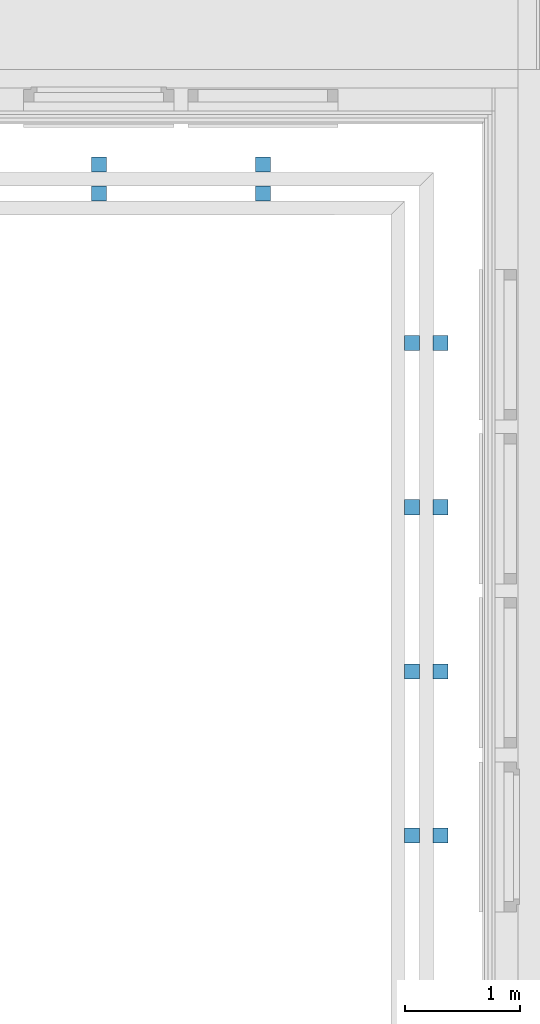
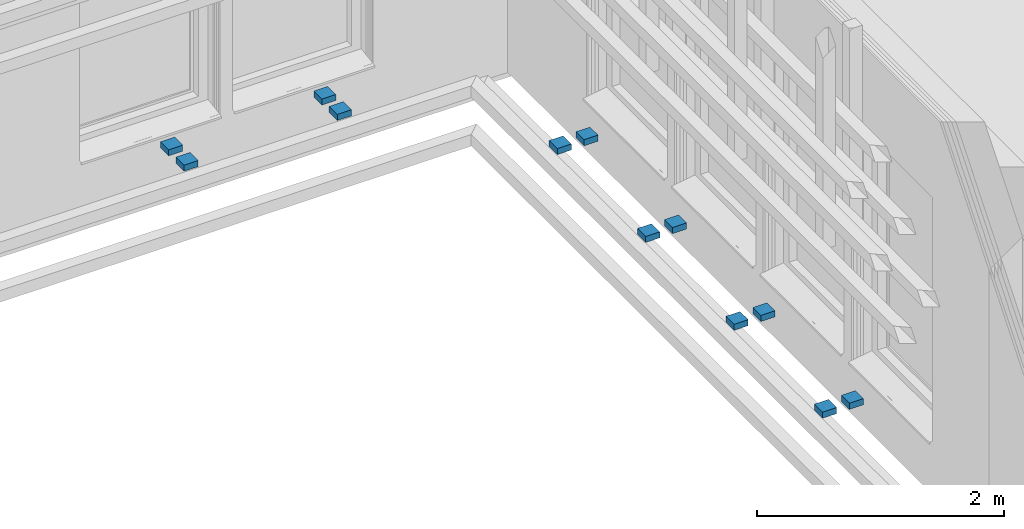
# One storey, part 27 of 139: 12 discrete accessories.
"""IFC2X3 building model written with IfcOpenShell, lengths in millimetres."""

from ifc_helpers import new_model, entity, si_unit, converted_unit, derived_unit, money_unit, direction, frame, origin_with_axes, place, context, subcontext, project, spatial, faceted_brep, source, transform, mapped, material, type_object, element, save


model = new_model("IFC2X3")

# Units and contexts
model_context = context("Model", 3, precision=0.01, world=origin_with_axes(), true_north=direction((0.0, 1.0)))
body_context = subcontext(model_context, "Body", "Model", "MODEL_VIEW")
ifc_project = project(units=[si_unit("LENGTHUNIT", "METRE", prefix="MILLI"), si_unit("AREAUNIT", "SQUARE_METRE"), si_unit("VOLUMEUNIT", "CUBIC_METRE"), converted_unit("PLANEANGLEUNIT", "DEGREE", entity("IfcPlaneAngleMeasure", 0.0174532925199), si_unit("PLANEANGLEUNIT", "RADIAN"), dimensions=[0, 0, 0, 0, 0, 0, 0]), money_unit("EUR"), converted_unit("TIMEUNIT", "Year", entity("IfcTimeMeasure", 31556926.0), si_unit("TIMEUNIT", "SECOND"), dimensions=[0, 0, 1, 0, 0, 0, 0]), si_unit("MASSUNIT", "GRAM", prefix="KILO"), si_unit("THERMODYNAMICTEMPERATUREUNIT", "DEGREE_CELSIUS"), si_unit("LUMINOUSINTENSITYUNIT", "LUMEN"), si_unit("ENERGYUNIT", "JOULE", prefix="MEGA"), derived_unit("THERMALCONDUCTANCEUNIT", [(si_unit("POWERUNIT", "WATT"), 1), (si_unit("LENGTHUNIT", "METRE"), -1), (si_unit("THERMODYNAMICTEMPERATUREUNIT", "KELVIN"), -1)]), derived_unit("SPECIFICHEATCAPACITYUNIT", [(si_unit("ENERGYUNIT", "JOULE"), 1), (si_unit("MASSUNIT", "GRAM", prefix="KILO"), -1), (si_unit("THERMODYNAMICTEMPERATUREUNIT", "KELVIN"), -1)]), derived_unit("MASSDENSITYUNIT", [(si_unit("MASSUNIT", "GRAM", prefix="KILO"), 1), (si_unit("VOLUMEUNIT", "CUBIC_METRE"), -1)])], contexts=[model_context])

# Site, building, storey
site_placement = place(None, origin_with_axes())
site = spatial("IfcSite", under=ifc_project, at=site_placement, Name="Kolde pst 67a", CompositionType="ELEMENT")
building_placement = place(site_placement, origin_with_axes())
building = spatial("IfcBuilding", under=site, at=building_placement, Name="Riigigümnaasium", CompositionType="ELEMENT")
storey_placement = place(building_placement, frame((0.0, 0.0, 4600.0), z_axis=(0.0, 0.0, 1.0), x_axis=(1.0, 0.0, 0.0)))
storey = spatial("IfcBuildingStorey", under=building, at=storey_placement, Name="2. korrus", CompositionType="ELEMENT", Elevation=4600.0)

# Discrete accessories
ifc_material = material(Name="_METALL - teras")
discrete_accessory_type = type_object("IfcDiscreteAccessoryType", Name="Ribi mütsike")
shared_shape = source(origin_with_axes(), body_context, "Body", "Brep", [
    faceted_brep([(130.599681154, 0.599686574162, 59.9999991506), (131.19964603, -0.000354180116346, 59.9999991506), (131.20794202, 131.19964603, 59.9999991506), (130.607901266, 130.599681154, 59.9999991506), (131.19964603, -0.000354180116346, 0.0), (65.6037939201, 65.6037939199, 63.4372869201), (65.6037939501, 65.6037939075, 62.8830381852), (130.599681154, 0.599686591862, 59.4568348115), (130.599681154, 0.599686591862, 19.9999983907), (130.599683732, 0.599683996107, 0.60000014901), (129.299765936, 1.89976619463, 0.60000014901), (129.299765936, 1.899766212, 19.9999983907), (128.699802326, 2.49980569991, 19.9999983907), (128.699802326, 2.49980569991, 0.0), (131.20794202, 131.19964603, 0.0), (128.707782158, 128.699802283, 0.0), (128.707782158, 128.699802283, 19.9999983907), (129.307821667, 129.299765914, 19.9999983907), (129.307821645, 129.299765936, 0.60000014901), (130.607903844, 130.599683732, 0.60000014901), (130.607901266, 130.599681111, 19.9999983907), (130.607901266, 130.599681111, 59.4568348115)], [[[0, 1, 2, 3]], [[4, 1, 0, 5, 6, 7, 8, 9, 10, 11, 12, 13]], [[1, 4, 14, 2]], [[6, 5, 3, 2, 14, 15, 16, 17, 18, 19, 20, 21]], [[5, 0, 3]], [[7, 6, 21]], [[8, 7, 21, 20, 19, 9]], [[10, 9, 19, 18]], [[11, 10, 18, 17]], [[12, 11, 17, 16]], [[13, 12, 16, 15]], [[4, 13, 15, 14]]]),
    faceted_brep([(0.607906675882, 130.607901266, 59.9999991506), (65.6037939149, 65.6037939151, 63.4372869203), (130.607901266, 130.599681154, 59.9999991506), (65.603793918, 65.6037939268, 62.8830381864), (0.00794179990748, 131.20794202, 59.9999991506), (0.00794179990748, 131.20794202, 0.0), (2.50778551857, 128.707782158, 0.0), (2.50778551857, 128.707782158, 19.9999983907), (1.90782190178, 129.307821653, 19.9999983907), (1.90782189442, 129.307821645, 0.60000014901), (0.607904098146, 130.607903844, 0.60000014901), (0.60790669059, 130.607901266, 19.9999983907), (0.60790669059, 130.607901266, 59.4568348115), (130.607901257, 130.599681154, 59.4568348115), (130.607901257, 130.599681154, 19.9999983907), (130.607903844, 130.599683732, 0.60000014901), (129.307821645, 129.299765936, 0.60000014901), (129.307821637, 129.299765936, 19.9999983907), (128.707782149, 128.699802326, 19.9999983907), (128.707782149, 128.699802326, 0.0), (131.20794202, 131.19964603, 0.0), (131.20794202, 131.19964603, 59.9999991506)], [[[0, 1, 2]], [[3, 1, 0, 4, 5, 6, 7, 8, 9, 10, 11, 12]], [[1, 3, 13, 14, 15, 16, 17, 18, 19, 20, 21, 2]], [[4, 0, 2, 21]], [[5, 4, 21, 20]], [[6, 5, 20, 19]], [[7, 6, 19, 18]], [[8, 7, 18, 17]], [[9, 8, 17, 16]], [[10, 9, 16, 15]], [[11, 10, 15, 14, 13, 12]], [[3, 12, 13]]]),
    faceted_brep([(0.599686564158, 0.607906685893, 59.9999991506), (65.6037939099, 65.6037939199, 63.4372869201), (0.607906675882, 130.607901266, 59.9999991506), (65.6037939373, 65.6037939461, 62.8830381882), (-0.000354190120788, 0.00794180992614, 59.9999991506), (-0.000354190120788, 0.00794180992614, 0.0), (2.4998056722, 2.50778551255, 0.0), (2.4998056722, 2.50778551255, 19.9999983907), (1.89976618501, 1.90782190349, 19.9999983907), (1.89976618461, 1.90782190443, 0.60000014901), (0.599683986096, 0.607904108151, 0.60000014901), (0.599686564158, 0.607906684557, 19.9999983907), (0.599686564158, 0.607906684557, 59.4568348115), (0.607906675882, 130.607901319, 59.4568348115), (0.607906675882, 130.607901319, 19.9999983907), (0.607904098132, 130.607903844, 0.60000014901), (1.90782189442, 129.307821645, 0.60000014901), (1.90782192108, 129.307821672, 19.9999983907), (2.50778550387, 128.707782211, 19.9999983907), (2.50778550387, 128.707782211, 0.0), (0.0079417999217, 131.20794202, 0.0), (0.0079417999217, 131.20794202, 59.9999991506)], [[[0, 1, 2]], [[3, 1, 0, 4, 5, 6, 7, 8, 9, 10, 11, 12]], [[1, 3, 13, 14, 15, 16, 17, 18, 19, 20, 21, 2]], [[4, 0, 2, 21]], [[5, 4, 21, 20]], [[6, 5, 20, 19]], [[7, 6, 19, 18]], [[8, 7, 18, 17]], [[9, 8, 17, 16]], [[10, 9, 16, 15]], [[11, 10, 15, 14, 13, 12]], [[3, 12, 13]]]),
    faceted_brep([(65.603793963, 65.6037939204, 62.8830381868), (65.6037939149, 65.6037939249, 63.4372869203), (130.599681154, 0.599686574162, 59.9999991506), (131.19964603, -0.000354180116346, 59.9999991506), (131.19964603, -0.000354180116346, 0.0), (128.699802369, 2.49980568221, 0.0), (128.699802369, 2.49980568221, 19.9999983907), (129.299765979, 1.89976619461, 19.9999983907), (129.299765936, 1.89976619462, 0.60000014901), (130.599683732, 0.599683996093, 0.60000014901), (130.599681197, 0.599686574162, 19.9999983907), (130.599681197, 0.599686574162, 59.4568348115), (0.599686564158, 0.607906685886, 59.9999991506), (0.599686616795, 0.607906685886, 59.4568348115), (0.599686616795, 0.607906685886, 19.9999983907), (0.599683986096, 0.607904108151, 0.60000014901), (1.89976618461, 1.90782190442, 0.60000014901), (1.89976623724, 1.90782190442, 19.9999983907), (2.49980572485, 2.50778551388, 19.9999983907), (2.49980572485, 2.50778551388, 0.0), (-0.000354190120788, 0.00794180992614, 0.0), (-0.000354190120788, 0.00794180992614, 59.9999991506)], [[[0, 1, 2, 3, 4, 5, 6, 7, 8, 9, 10, 11]], [[12, 1, 0, 13, 14, 15, 16, 17, 18, 19, 20, 21]], [[1, 12, 2]], [[12, 21, 3, 2]], [[21, 20, 4, 3]], [[20, 19, 5, 4]], [[19, 18, 6, 5]], [[18, 17, 7, 6]], [[17, 16, 8, 7]], [[16, 15, 9, 8]], [[14, 13, 11, 10, 9, 15]], [[13, 0, 11]]]),
])
for number, where, z_axis, x_axis, name in (
    (1, (23298.8928764, 43021.8146494, 495.0), (0.0, 0.0, 1.0), (0.0, -1.0, 0.0), "ASTME MOODUL 1:ASTME MOODUL 1"),
    (2, (23298.8928764, 41591.8146494, 495.0), (0.0, 0.0, 1.0), (0.0, -1.0, 0.0), "ASTME MOODUL 1:ASTME MOODUL 1"),
    (3, (23298.8928764, 44451.8146494, 495.0), (0.0, 0.0, 1.0), (0.0, -1.0, 0.0), "ASTME MOODUL 1:ASTME MOODUL 1"),
    (4, (23048.8928764, 43021.8146494, 495.0), (0.0, 0.0, 1.0), (0.0, -1.0, 0.0), "ASTME MOODUL 1:ASTME MOODUL 1"),
    (5, (23048.8928764, 44451.8146494, 495.0), (0.0, 0.0, 1.0), (0.0, -1.0, 0.0), "ASTME MOODUL 1:ASTME MOODUL 1"),
    (6, (20319.7186967, 47187.8182782, 495.0), (0.0, 0.0, 1.0), (0.0, -1.0, 0.0), "ASTME MOODUL 1:ASTME MOODUL 1"),
    (7, (21749.7186967, 47187.8182782, 495.0), (0.0, 0.0, 1.0), (0.0, -1.0, 0.0), "ASTME MOODUL 1:ASTME MOODUL 1"),
    (8, (20319.7186967, 47437.8182782, 495.0), (0.0, 0.0, 1.0), (0.0, -1.0, 0.0), "ASTME MOODUL 1:ASTME MOODUL 1"),
    (9, (21749.7186967, 47437.8182782, 495.0), (0.0, 0.0, 1.0), (0.0, -1.0, 0.0), "ASTME MOODUL 1:ASTME MOODUL 1"),
    (10, (23298.8928764, 45881.8146494, 495.0), (0.0, 0.0, 1.0), (0.0, -1.0, 0.0), "ASTME MOODUL 1:ASTME MOODUL 1"),
    (11, (23048.8928764, 45881.8146494, 495.0), (0.0, 0.0, 1.0), (0.0, -1.0, 0.0), "ASTME MOODUL 1:ASTME MOODUL 1"),
    (12, (23048.8928764, 41591.8146494, 495.0), (0.0, 0.0, 1.0), (0.0, -1.0, 0.0), "ASTME MOODUL 1:ASTME MOODUL 1"),
):
    element("IfcDiscreteAccessory", number, at=place(storey_placement, frame(where, z_axis=z_axis, x_axis=x_axis)), inside=storey, type_object=discrete_accessory_type, material=ifc_material, Name=name, context=body_context, shape_type="MappedRepresentation", body=[
        mapped(shared_shape, transform((0.0, 0.0, 0.0))),
    ])

save(model, "model.ifc")
